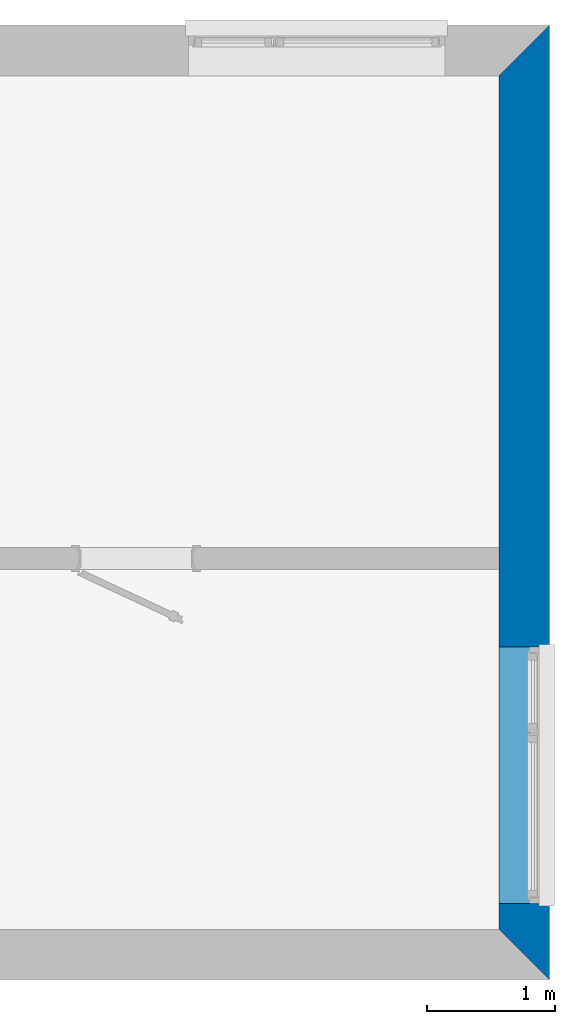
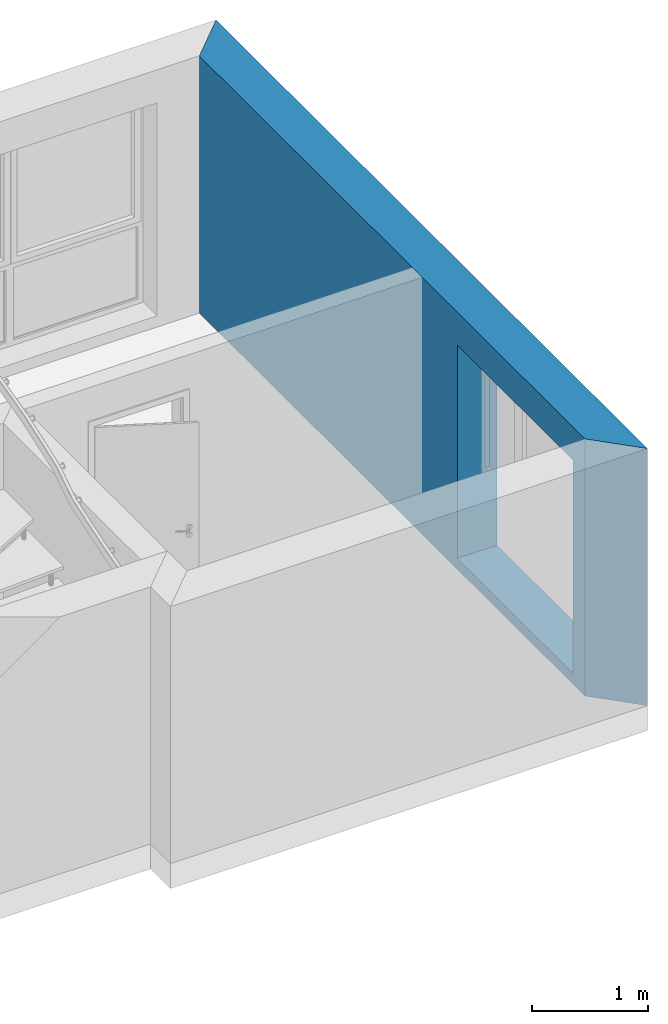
# One storey, part 16 of 16: 1 wall, 1 opening.
"""IFC2X3 building model written with IfcOpenShell, lengths in millimetres."""

from ifc_helpers import new_model, si_unit, frame, origin_with_axes, place, context, project, spatial, faceted_brep, material, layer, layer_set, layer_usage, element, save


model = new_model("IFC2X3")

# Units and contexts
model_context = context("Model", 3, world=origin_with_axes())
ifc_project = project(units=[si_unit("LENGTHUNIT", "METRE", prefix="MILLI")], contexts=[model_context])

# Site, building, storey
site_placement = place(None, origin_with_axes())
site = spatial("IfcSite", under=ifc_project, at=site_placement, Name="Site", CompositionType="ELEMENT")
building_placement = place(site_placement, origin_with_axes())
building = spatial("IfcBuilding", under=site, at=building_placement, Name="?", CompositionType="ELEMENT")
storey_placement = place(building_placement, frame((0.0, 0.0, 2969.0), z_axis=(0.0, 0.0, 1.0), x_axis=(1.0, 0.0, 0.0)))
storey = spatial("IfcBuildingStorey", under=building, at=storey_placement, Name="Obergeschoß 1", CompositionType="ELEMENT", Elevation=2969.0)

# Wall, opening
ifc_material = material(Name="Material_AW")
ifc_layer = layer(ifc_material, 395.0, ventilated=False)
ifc_layer_set = layer_set([ifc_layer], Name="MaterialLayerSet_AW")
ifc_layer_usage = layer_usage(ifc_layer_set, "AXIS2", "NEGATIVE", 197.5)
wall_placement = place(storey_placement, frame((18102.5, -197.5, 0.0), z_axis=(0.0, 0.0, 1.0), x_axis=(0.0, -1.0, 0.0)))
wall = element("IfcWall", 1, at=wall_placement, inside=storey, material=ifc_layer_usage, Name="AW-12", context=model_context, shape_type="Brep", body=[
    faceted_brep([(6847.49912937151, -197.5, 0.0), (6847.49912937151, -197.5, 2707.0), (197.5, -197.5, 2707.0), (197.5, -197.5, 0.0), (7242.50009495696, 197.5, 0.0), (7242.50009495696, 197.5, 2707.0), (6847.49912937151, -197.5, 2707.0), (6847.49912937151, -197.5, 0.0), (-197.500732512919, 197.5, 0.0), (-197.500732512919, 197.5, 2707.0), (7242.50009495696, 197.5, 2707.0), (7242.50009495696, 197.5, 0.0), (197.5, -197.5, 0.0), (197.5, -197.5, 2707.0), (-197.500732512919, 197.5, 2707.0), (-197.500732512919, 197.5, 0.0), (197.5, -197.5, 0.0), (-197.500732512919, 197.5, 0.0), (7242.50009495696, 197.5, 0.0), (6847.49912937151, -197.5, 0.0), (-197.500732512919, 197.5, 2707.0), (197.5, -197.5, 2707.0), (6847.49912937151, -197.5, 2707.0), (7242.50009495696, 197.5, 2707.0)], [[[0, 1, 2, 3]], [[4, 5, 6, 7]], [[8, 9, 10, 11]], [[12, 13, 14, 15]], [[16, 17, 18, 19]], [[20, 21, 22, 23]]]),
])
opening_placement = place(wall_placement, frame((4647.5, 0.0, 116.0), z_axis=(0.0, 0.0, 1.0), x_axis=(1.0, 0.0, 0.0)))
element("IfcOpeningElement", 2, at=opening_placement, cuts=wall, Name="AW-12|FE16", context=model_context, shape_type="Brep", body=[
    faceted_brep([(0.0, 207.5, 0.0), (0.0, 207.5, 2244.0), (2000.0, 207.5, 2244.0), (2000.0, 207.5, 0.0), (0.0, -207.5, 0.0), (0.0, -207.5, 2244.0), (0.0, 207.5, 2244.0), (0.0, 207.5, 0.0), (2000.0, -207.5, 0.0), (0.0, -207.5, 0.0), (0.0, 207.5, 0.0), (2000.0, 207.5, 0.0), (2000.0, -207.5, 2244.0), (2000.0, -207.5, 0.0), (2000.0, 207.5, 0.0), (2000.0, 207.5, 2244.0), (0.0, -207.5, 2244.0), (2000.0, -207.5, 2244.0), (2000.0, 207.5, 2244.0), (0.0, 207.5, 2244.0), (0.0, -207.5, 0.0), (2000.0, -207.5, 0.0), (2000.0, -207.5, 2244.0), (0.0, -207.5, 2244.0)], [[[0, 1, 2, 3]], [[4, 5, 6, 7]], [[8, 9, 10, 11]], [[12, 13, 14, 15]], [[16, 17, 18, 19]], [[20, 21, 22, 23]]]),
])

save(model, "model.ifc")
